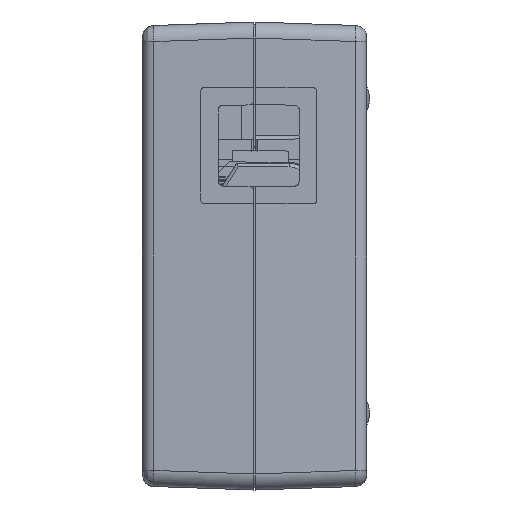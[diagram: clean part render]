
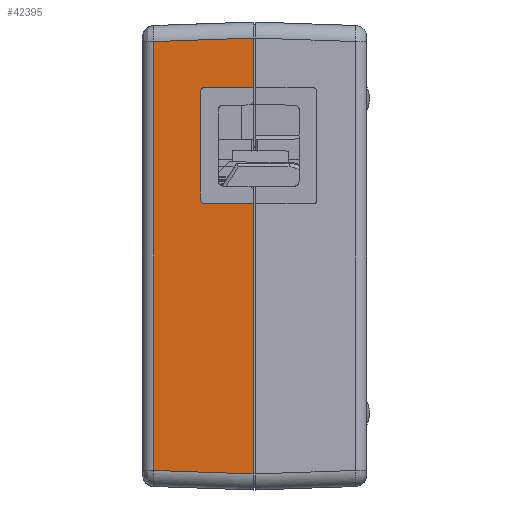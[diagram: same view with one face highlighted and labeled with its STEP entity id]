
A CAD part, left-side view. The second image highlights one B-rep face of the part: STEP entity #42395.
In plain terms, the highlighted planar face has unit normal (-0.999, 0.035, 0).
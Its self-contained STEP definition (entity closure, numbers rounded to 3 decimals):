
#208 = LINE ( 'NONE', #681, #10451 ) ;
#457 = DIRECTION ( 'NONE',  ( 0., 0., 1. ) ) ;
#681 = CARTESIAN_POINT ( 'NONE',  ( -86.5, 0., 24.122 ) ) ;
#2272 = DIRECTION ( 'NONE',  ( 0., 0., -1. ) ) ;
#2660 = VERTEX_POINT ( 'NONE', #18734 ) ;
#3917 = VECTOR ( 'NONE', #8018, 1000. ) ;
#4836 = DIRECTION ( 'NONE',  ( 0.035, 0.999, -0.004 ) ) ;
#5915 = VERTEX_POINT ( 'NONE', #29110 ) ;
#6145 = VECTOR ( 'NONE', #457, 1000. ) ;
#6530 = ORIENTED_EDGE ( 'NONE', *, *, #29085, .F. ) ;
#6574 = VERTEX_POINT ( 'NONE', #35979 ) ;
#6678 = CARTESIAN_POINT ( 'NONE',  ( -86.5, 0., 24.122 ) ) ;
#7037 = ORIENTED_EDGE ( 'NONE', *, *, #11394, .F. ) ;
#7355 = CARTESIAN_POINT ( 'NONE',  ( -86.254, 7.052, 7.509 ) ) ;
#7530 = CARTESIAN_POINT ( 'NONE',  ( -86.236, 7.55, 8.009 ) ) ;
#7910 = VERTEX_POINT ( 'NONE', #6678 ) ;
#8018 = DIRECTION ( 'NONE',  ( 0., 0., 1. ) ) ;
#8814 = DIRECTION ( 'NONE',  ( 0., 0., 1. ) ) ;
#9259 = EDGE_CURVE ( 'NONE', #6574, #21630, #42212, .T. ) ;
#9868 = DIRECTION ( 'NONE',  ( 0., 0., 1. ) ) ;
#10265 = VECTOR ( 'NONE', #42527, 1000. ) ;
#10451 = VECTOR ( 'NONE', #4836, 1000. ) ;
#10622 = EDGE_CURVE ( 'NONE', #7910, #30519, #208, .T. ) ;
#10670 = CARTESIAN_POINT ( 'NONE',  ( -86.236, 7.55, 23.591 ) ) ;
#11279 =( BOUNDED_CURVE ( )  B_SPLINE_CURVE ( 3, ( #40762, #11500, #41239, #7355 ),
 .UNSPECIFIED., .F., .T. ) 
 B_SPLINE_CURVE_WITH_KNOTS ( ( 4, 4 ),
 ( 0., 1.566 ),
 .UNSPECIFIED. ) 
 CURVE ( )  GEOMETRIC_REPRESENTATION_ITEM ( )  RATIONAL_B_SPLINE_CURVE ( ( 1., 0.806, 0.806, 1. ) ) 
 REPRESENTATION_ITEM ( '' )  );
#11394 = EDGE_CURVE ( 'NONE', #23589, #11603, #11279, .T. ) ;
#11500 = CARTESIAN_POINT ( 'NONE',  ( -86.236, 7.55, 7.717 ) ) ;
#11603 = VERTEX_POINT ( 'NONE', #46604 ) ;
#12002 =( BOUNDED_CURVE ( )  B_SPLINE_CURVE ( 3, ( #29477, #25824, #40894, #10670 ),
 .UNSPECIFIED., .F., .F. ) 
 B_SPLINE_CURVE_WITH_KNOTS ( ( 4, 4 ),
 ( 4.717, 6.283 ),
 .UNSPECIFIED. ) 
 CURVE ( )  GEOMETRIC_REPRESENTATION_ITEM ( )  RATIONAL_B_SPLINE_CURVE ( ( 1., 0.806, 0.806, 1. ) ) 
 REPRESENTATION_ITEM ( '' )  );
#12406 = CARTESIAN_POINT ( 'NONE',  ( -86.5, 0., 0. ) ) ;
#14017 = DIRECTION ( 'NONE',  ( -0.999, 0.035, 0. ) ) ;
#14708 = AXIS2_PLACEMENT_3D ( 'NONE', #33288, #14017, #9868 ) ;
#15549 = ORIENTED_EDGE ( 'NONE', *, *, #46498, .T. ) ;
#16474 = DIRECTION ( 'NONE',  ( -0.035, -0.999, -0.035 ) ) ;
#16671 = EDGE_CURVE ( 'NONE', #7910, #5915, #33910, .T. ) ;
#17447 = VECTOR ( 'NONE', #2272, 1000. ) ;
#17733 = VERTEX_POINT ( 'NONE', #46562 ) ;
#18039 = VECTOR ( 'NONE', #8814, 1000. ) ;
#18413 = PLANE ( 'NONE',  #14708 ) ;
#18734 = CARTESIAN_POINT ( 'NONE',  ( -86.5, 0., -31.201 ) ) ;
#19326 = CARTESIAN_POINT ( 'NONE',  ( -86.002, 14.259, -33.626 ) ) ;
#19737 = ORIENTED_EDGE ( 'NONE', *, *, #16671, .T. ) ;
#20099 = EDGE_LOOP ( 'NONE', ( #48069, #44287, #7037, #6530, #32645, #38758, #19737, #22908, #30710, #15549 ) ) ;
#20392 = VECTOR ( 'NONE', #47891, 1000. ) ;
#21630 = VERTEX_POINT ( 'NONE', #32619 ) ;
#22774 = CARTESIAN_POINT ( 'NONE',  ( -86.5, 0., 31.201 ) ) ;
#22908 = ORIENTED_EDGE ( 'NONE', *, *, #35277, .T. ) ;
#23589 = VERTEX_POINT ( 'NONE', #7530 ) ;
#23725 = EDGE_CURVE ( 'NONE', #2660, #17733, #37543, .T. ) ;
#25824 = CARTESIAN_POINT ( 'NONE',  ( -86.244, 7.344, 24.09 ) ) ;
#27937 = CARTESIAN_POINT ( 'NONE',  ( -86.254, 7.052, 7.509 ) ) ;
#29085 = EDGE_CURVE ( 'NONE', #47886, #23589, #30931, .T. ) ;
#29110 = CARTESIAN_POINT ( 'NONE',  ( -86.5, 0., 31.201 ) ) ;
#29477 = CARTESIAN_POINT ( 'NONE',  ( -86.254, 7.052, 24.091 ) ) ;
#30519 = VERTEX_POINT ( 'NONE', #39900 ) ;
#30710 = ORIENTED_EDGE ( 'NONE', *, *, #9259, .F. ) ;
#30931 = LINE ( 'NONE', #46941, #17447 ) ;
#32619 = CARTESIAN_POINT ( 'NONE',  ( -86.002, 14.259, 30.703 ) ) ;
#32645 = ORIENTED_EDGE ( 'NONE', *, *, #34782, .F. ) ;
#33288 = CARTESIAN_POINT ( 'NONE',  ( -86.5, 0., -34.745 ) ) ;
#33910 = LINE ( 'NONE', #45102, #6145 ) ;
#34782 = EDGE_CURVE ( 'NONE', #30519, #47886, #12002, .T. ) ;
#35266 = LINE ( 'NONE', #38663, #40273 ) ;
#35277 = EDGE_CURVE ( 'NONE', #5915, #21630, #41262, .T. ) ;
#35979 = CARTESIAN_POINT ( 'NONE',  ( -86.002, 14.259, -30.703 ) ) ;
#36444 = EDGE_CURVE ( 'NONE', #11603, #17733, #43008, .T. ) ;
#37543 = LINE ( 'NONE', #12406, #3917 ) ;
#38663 = CARTESIAN_POINT ( 'NONE',  ( -86.002, 14.259, -30.703 ) ) ;
#38758 = ORIENTED_EDGE ( 'NONE', *, *, #10622, .F. ) ;
#39900 = CARTESIAN_POINT ( 'NONE',  ( -86.254, 7.052, 24.091 ) ) ;
#40273 = VECTOR ( 'NONE', #16474, 1000. ) ;
#40586 = FACE_OUTER_BOUND ( 'NONE', #20099, .T. ) ;
#40762 = CARTESIAN_POINT ( 'NONE',  ( -86.236, 7.55, 8.009 ) ) ;
#40894 = CARTESIAN_POINT ( 'NONE',  ( -86.236, 7.55, 23.883 ) ) ;
#41239 = CARTESIAN_POINT ( 'NONE',  ( -86.244, 7.344, 7.51 ) ) ;
#41262 = LINE ( 'NONE', #22774, #20392 ) ;
#42212 = LINE ( 'NONE', #19326, #18039 ) ;
#42226 = CARTESIAN_POINT ( 'NONE',  ( -86.236, 7.55, 23.591 ) ) ;
#42395 = ADVANCED_FACE ( 'NONE', ( #40586 ), #18413, .T. ) ;
#42527 = DIRECTION ( 'NONE',  ( -0.035, -0.999, -0.004 ) ) ;
#43008 = LINE ( 'NONE', #27937, #10265 ) ;
#44287 = ORIENTED_EDGE ( 'NONE', *, *, #36444, .F. ) ;
#45102 = CARTESIAN_POINT ( 'NONE',  ( -86.5, 0., 0. ) ) ;
#46498 = EDGE_CURVE ( 'NONE', #6574, #2660, #35266, .T. ) ;
#46562 = CARTESIAN_POINT ( 'NONE',  ( -86.5, 0., 7.478 ) ) ;
#46604 = CARTESIAN_POINT ( 'NONE',  ( -86.254, 7.052, 7.509 ) ) ;
#46941 = CARTESIAN_POINT ( 'NONE',  ( -86.236, 7.55, 24.089 ) ) ;
#47886 = VERTEX_POINT ( 'NONE', #42226 ) ;
#47891 = DIRECTION ( 'NONE',  ( 0.035, 0.999, -0.035 ) ) ;
#48069 = ORIENTED_EDGE ( 'NONE', *, *, #23725, .T. ) ;
